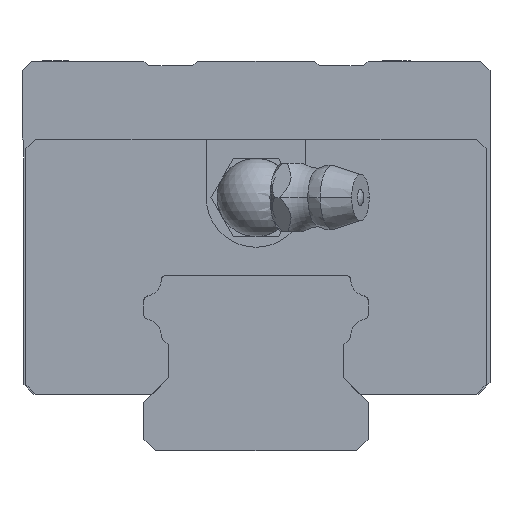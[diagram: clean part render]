
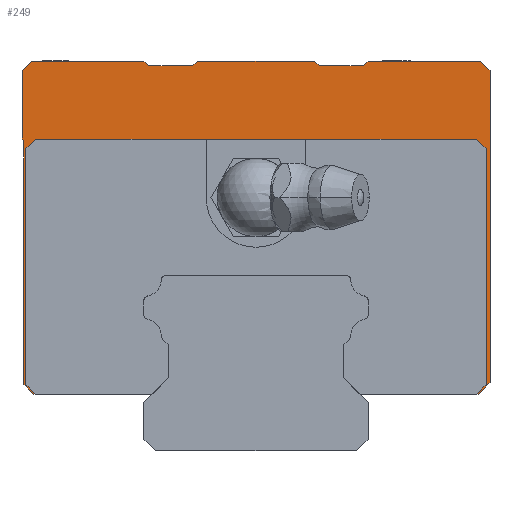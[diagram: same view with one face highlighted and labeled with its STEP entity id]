
A CAD part, front view. The second image highlights one B-rep face of the part: STEP entity #249.
In plain terms, the highlighted planar face has unit normal (0, -1, 0).
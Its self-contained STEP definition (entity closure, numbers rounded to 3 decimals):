
#249=ADVANCED_FACE('',(#556),#557,.F.);
#556=FACE_OUTER_BOUND('',#1016,.T.);
#557=PLANE('',#1017);
#1016=EDGE_LOOP('',(#2015,#2016,#2017,#2018,#2019,#2020,#2021,#2022,#2023,#2024,#2025,#2026,#2027,#2028,#2029,#2030,#2031,#2032,#2033,#2034,#2035,#2036,#2037,#2038,#2039,#2040));
#1017=AXIS2_PLACEMENT_3D('',#2041,#2042,#2043);
#2015=ORIENTED_EDGE('',*,*,#3511,.F.);
#2016=ORIENTED_EDGE('',*,*,#3512,.F.);
#2017=ORIENTED_EDGE('',*,*,#3513,.F.);
#2018=ORIENTED_EDGE('',*,*,#3514,.F.);
#2019=ORIENTED_EDGE('',*,*,#3515,.F.);
#2020=ORIENTED_EDGE('',*,*,#3516,.F.);
#2021=ORIENTED_EDGE('',*,*,#3517,.F.);
#2022=ORIENTED_EDGE('',*,*,#3518,.T.);
#2023=ORIENTED_EDGE('',*,*,#3519,.T.);
#2024=ORIENTED_EDGE('',*,*,#3520,.T.);
#2025=ORIENTED_EDGE('',*,*,#3521,.T.);
#2026=ORIENTED_EDGE('',*,*,#3522,.T.);
#2027=ORIENTED_EDGE('',*,*,#3523,.T.);
#2028=ORIENTED_EDGE('',*,*,#3524,.T.);
#2029=ORIENTED_EDGE('',*,*,#3525,.T.);
#2030=ORIENTED_EDGE('',*,*,#3526,.T.);
#2031=ORIENTED_EDGE('',*,*,#3527,.T.);
#2032=ORIENTED_EDGE('',*,*,#3528,.T.);
#2033=ORIENTED_EDGE('',*,*,#3529,.T.);
#2034=ORIENTED_EDGE('',*,*,#3530,.T.);
#2035=ORIENTED_EDGE('',*,*,#3531,.T.);
#2036=ORIENTED_EDGE('',*,*,#3532,.T.);
#2037=ORIENTED_EDGE('',*,*,#3533,.T.);
#2038=ORIENTED_EDGE('',*,*,#3534,.T.);
#2039=ORIENTED_EDGE('',*,*,#3535,.T.);
#2040=ORIENTED_EDGE('',*,*,#3536,.T.);
#2041=CARTESIAN_POINT('',(24.0,0.,40.0));
#2042=DIRECTION('',(0.,1.0,0.));
#2043=DIRECTION('',(1.0,0.,0.));
#3511=EDGE_CURVE('',#4563,#4564,#4565,.T.);
#3512=EDGE_CURVE('',#4566,#4563,#4567,.T.);
#3513=EDGE_CURVE('',#4568,#4566,#4569,.T.);
#3514=EDGE_CURVE('',#4570,#4568,#4571,.T.);
#3515=EDGE_CURVE('',#4572,#4570,#4573,.T.);
#3516=EDGE_CURVE('',#4574,#4572,#4575,.T.);
#3517=EDGE_CURVE('',#4576,#4574,#4577,.T.);
#3518=EDGE_CURVE('',#4576,#4578,#4579,.T.);
#3519=EDGE_CURVE('',#4578,#4580,#4581,.T.);
#3520=EDGE_CURVE('',#4580,#4582,#4583,.T.);
#3521=EDGE_CURVE('',#4582,#4584,#4585,.T.);
#3522=EDGE_CURVE('',#4584,#4586,#4587,.T.);
#3523=EDGE_CURVE('',#4586,#4588,#4589,.T.);
#3524=EDGE_CURVE('',#4588,#4590,#4591,.T.);
#3525=EDGE_CURVE('',#4590,#4592,#4593,.T.);
#3526=EDGE_CURVE('',#4592,#4594,#4595,.T.);
#3527=EDGE_CURVE('',#4594,#4596,#4597,.T.);
#3528=EDGE_CURVE('',#4596,#4598,#4599,.T.);
#3529=EDGE_CURVE('',#4598,#4600,#4601,.T.);
#3530=EDGE_CURVE('',#4600,#4602,#4603,.T.);
#3531=EDGE_CURVE('',#4602,#4604,#4605,.T.);
#3532=EDGE_CURVE('',#4604,#4606,#4607,.T.);
#3533=EDGE_CURVE('',#4606,#4608,#4609,.T.);
#3534=EDGE_CURVE('',#4608,#4610,#4611,.T.);
#3535=EDGE_CURVE('',#4610,#4612,#4613,.T.);
#3536=EDGE_CURVE('',#4612,#4564,#4614,.T.);
#4563=VERTEX_POINT('',#5993);
#4564=VERTEX_POINT('',#5994);
#4565=LINE('',#5995,#5996);
#4566=VERTEX_POINT('',#5997);
#4567=LINE('',#5998,#5999);
#4568=VERTEX_POINT('',#6000);
#4569=LINE('',#6001,#6002);
#4570=VERTEX_POINT('',#6003);
#4571=LINE('',#6004,#6005);
#4572=VERTEX_POINT('',#6006);
#4573=LINE('',#6007,#6008);
#4574=VERTEX_POINT('',#6009);
#4575=LINE('',#6010,#6011);
#4576=VERTEX_POINT('',#6012);
#4577=LINE('',#6013,#6014);
#4578=VERTEX_POINT('',#6015);
#4579=LINE('',#6016,#6017);
#4580=VERTEX_POINT('',#6018);
#4581=LINE('',#6019,#6020);
#4582=VERTEX_POINT('',#6021);
#4583=LINE('',#6022,#6023);
#4584=VERTEX_POINT('',#6024);
#4585=LINE('',#6025,#6026);
#4586=VERTEX_POINT('',#6027);
#4587=LINE('',#6028,#6029);
#4588=VERTEX_POINT('',#6030);
#4589=LINE('',#6031,#6032);
#4590=VERTEX_POINT('',#6033);
#4591=LINE('',#6034,#6035);
#4592=VERTEX_POINT('',#6036);
#4593=LINE('',#6037,#6038);
#4594=VERTEX_POINT('',#6039);
#4595=LINE('',#6040,#6041);
#4596=VERTEX_POINT('',#6042);
#4597=LINE('',#6043,#6044);
#4598=VERTEX_POINT('',#6045);
#4599=LINE('',#6046,#6047);
#4600=VERTEX_POINT('',#6048);
#4601=LINE('',#6049,#6050);
#4602=VERTEX_POINT('',#6051);
#4603=LINE('',#6052,#6053);
#4604=VERTEX_POINT('',#6054);
#4605=LINE('',#6055,#6056);
#4606=VERTEX_POINT('',#6057);
#4607=LINE('',#6058,#6059);
#4608=VERTEX_POINT('',#6060);
#4609=LINE('',#6061,#6062);
#4610=VERTEX_POINT('',#6063);
#4611=LINE('',#6064,#6065);
#4612=VERTEX_POINT('',#6066);
#4613=LINE('',#6067,#6068);
#4614=LINE('',#6069,#6070);
#5993=CARTESIAN_POINT('',(-23.6,0.0,6.8));
#5994=CARTESIAN_POINT('',(-22.6,0.,5.8));
#5995=CARTESIAN_POINT('',(-23.6,0.0,6.8));
#5996=VECTOR('',#7520,1000.0);
#5997=CARTESIAN_POINT('',(-23.6,0.0,31.0));
#5998=CARTESIAN_POINT('',(-23.6,0.0,31.0));
#5999=VECTOR('',#7521,1000.0);
#6000=CARTESIAN_POINT('',(-22.6,0.0,32.0));
#6001=CARTESIAN_POINT('',(-22.6,0.0,32.0));
#6002=VECTOR('',#7522,1000.0);
#6003=CARTESIAN_POINT('',(22.6,0.0,32.0));
#6004=CARTESIAN_POINT('',(22.6,0.0,32.0));
#6005=VECTOR('',#7523,1000.0);
#6006=CARTESIAN_POINT('',(23.6,0.0,31.0));
#6007=CARTESIAN_POINT('',(23.6,0.0,31.0));
#6008=VECTOR('',#7524,1000.0);
#6009=CARTESIAN_POINT('',(23.6,0.0,6.8));
#6010=CARTESIAN_POINT('',(23.6,0.0,6.8));
#6011=VECTOR('',#7525,1000.0);
#6012=CARTESIAN_POINT('',(22.6,0.,5.8));
#6013=CARTESIAN_POINT('',(22.6,0.0,5.8));
#6014=VECTOR('',#7526,1000.0);
#6015=CARTESIAN_POINT('',(22.8,0.,5.8));
#6016=CARTESIAN_POINT('',(-22.8,0.,5.8));
#6017=VECTOR('',#7527,1000.0);
#6018=CARTESIAN_POINT('',(24.0,0.,7.0));
#6019=CARTESIAN_POINT('',(22.8,0.,5.8));
#6020=VECTOR('',#7528,1000.0);
#6021=CARTESIAN_POINT('',(24.0,0.,39.0));
#6022=CARTESIAN_POINT('',(24.0,0.,7.0));
#6023=VECTOR('',#7529,1000.0);
#6024=CARTESIAN_POINT('',(23.0,0.,40.0));
#6025=CARTESIAN_POINT('',(24.0,0.,39.0));
#6026=VECTOR('',#7530,1000.0);
#6027=CARTESIAN_POINT('',(11.5,0.,40.0));
#6028=CARTESIAN_POINT('',(23.0,0.,40.0));
#6029=VECTOR('',#7531,1000.0);
#6030=CARTESIAN_POINT('',(11.0,0.,39.5));
#6031=CARTESIAN_POINT('',(11.5,0.,40.0));
#6032=VECTOR('',#7532,1000.0);
#6033=CARTESIAN_POINT('',(6.5,0.,39.5));
#6034=CARTESIAN_POINT('',(11.0,0.,39.5));
#6035=VECTOR('',#7533,1000.0);
#6036=CARTESIAN_POINT('',(6.0,0.,40.0));
#6037=CARTESIAN_POINT('',(6.5,0.,39.5));
#6038=VECTOR('',#7534,1000.0);
#6039=CARTESIAN_POINT('',(-6.,0.,40.0));
#6040=CARTESIAN_POINT('',(6.0,0.,40.0));
#6041=VECTOR('',#7535,1000.0);
#6042=CARTESIAN_POINT('',(-6.5,0.,39.5));
#6043=CARTESIAN_POINT('',(-6.,0.,40.0));
#6044=VECTOR('',#7536,1000.0);
#6045=CARTESIAN_POINT('',(-11.0,0.,39.5));
#6046=CARTESIAN_POINT('',(-6.5,0.,39.5));
#6047=VECTOR('',#7537,1000.0);
#6048=CARTESIAN_POINT('',(-11.5,0.,40.0));
#6049=CARTESIAN_POINT('',(-11.0,0.,39.5));
#6050=VECTOR('',#7538,1000.0);
#6051=CARTESIAN_POINT('',(-23.0,0.,40.0));
#6052=CARTESIAN_POINT('',(-11.5,0.,40.0));
#6053=VECTOR('',#7539,1000.0);
#6054=CARTESIAN_POINT('',(-24.0,0.,39.0));
#6055=CARTESIAN_POINT('',(-23.0,0.,40.0));
#6056=VECTOR('',#7540,1000.0);
#6057=CARTESIAN_POINT('',(-24.0,0.,32.0));
#6058=CARTESIAN_POINT('',(-24.0,0.,39.0));
#6059=VECTOR('',#7541,1000.0);
#6060=CARTESIAN_POINT('',(-23.8,0.,31.8));
#6061=CARTESIAN_POINT('',(-24.0,0.,32.0));
#6062=VECTOR('',#7542,1000.0);
#6063=CARTESIAN_POINT('',(-23.8,0.,6.8));
#6064=CARTESIAN_POINT('',(-23.8,0.,31.8));
#6065=VECTOR('',#7543,1000.0);
#6066=CARTESIAN_POINT('',(-22.8,0.,5.8));
#6067=CARTESIAN_POINT('',(-23.8,0.,6.8));
#6068=VECTOR('',#7544,1000.0);
#6069=CARTESIAN_POINT('',(-22.8,0.,5.8));
#6070=VECTOR('',#7545,1000.0);
#7520=DIRECTION('',(0.707,0.0,-0.707));
#7521=DIRECTION('',(0.0,0.0,-1.0));
#7522=DIRECTION('',(-0.707,0.0,-0.707));
#7523=DIRECTION('',(-1.0,0.0,0.0));
#7524=DIRECTION('',(-0.707,0.0,0.707));
#7525=DIRECTION('',(0.0,0.0,1.0));
#7526=DIRECTION('',(0.707,0.0,0.707));
#7527=DIRECTION('',(1.0,0.,0.));
#7528=DIRECTION('',(0.707,0.,0.707));
#7529=DIRECTION('',(0.,0.,1.0));
#7530=DIRECTION('',(-0.707,0.,0.707));
#7531=DIRECTION('',(-1.0,0.,0.));
#7532=DIRECTION('',(-0.707,0.,-0.707));
#7533=DIRECTION('',(-1.0,0.,0.));
#7534=DIRECTION('',(-0.707,0.,0.707));
#7535=DIRECTION('',(-1.0,0.,0.));
#7536=DIRECTION('',(-0.707,0.,-0.707));
#7537=DIRECTION('',(-1.0,0.,0.));
#7538=DIRECTION('',(-0.707,0.,0.707));
#7539=DIRECTION('',(-1.0,0.,0.));
#7540=DIRECTION('',(-0.707,0.,-0.707));
#7541=DIRECTION('',(0.,0.,-1.0));
#7542=DIRECTION('',(0.707,0.,-0.707));
#7543=DIRECTION('',(0.,0.,-1.0));
#7544=DIRECTION('',(0.707,0.,-0.707));
#7545=DIRECTION('',(1.0,0.,0.));
